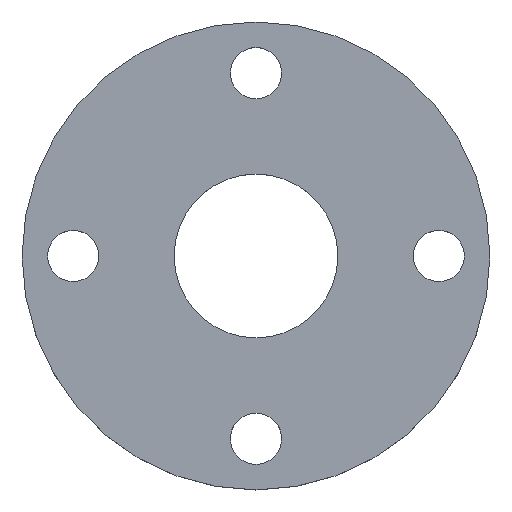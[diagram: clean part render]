
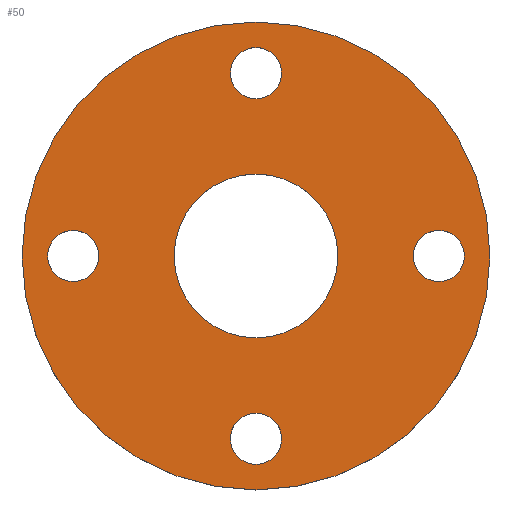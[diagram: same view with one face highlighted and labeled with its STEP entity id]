
A CAD part, top view. The second image highlights one B-rep face of the part: STEP entity #50.
In plain terms, the highlighted planar face has unit normal (0, 0, 1).
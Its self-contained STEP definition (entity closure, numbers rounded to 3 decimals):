
#21 = EDGE_CURVE('',#22,#22,#24,.T.);
#22 = VERTEX_POINT('',#23);
#23 = CARTESIAN_POINT('',(80.,0.,20.));
#24 = CIRCLE('',#25,80.);
#25 = AXIS2_PLACEMENT_3D('',#26,#27,#28);
#26 = CARTESIAN_POINT('',(0.,0.,20.));
#27 = DIRECTION('',(0.,0.,1.));
#28 = DIRECTION('',(1.,0.,0.));
#50 = ADVANCED_FACE('',(#51,#54,#65,#76,#87,#98),#109,.T.);
#51 = FACE_BOUND('',#52,.T.);
#52 = EDGE_LOOP('',(#53));
#53 = ORIENTED_EDGE('',*,*,#21,.T.);
#54 = FACE_BOUND('',#55,.T.);
#55 = EDGE_LOOP('',(#56));
#56 = ORIENTED_EDGE('',*,*,#57,.F.);
#57 = EDGE_CURVE('',#58,#58,#60,.T.);
#58 = VERTEX_POINT('',#59);
#59 = CARTESIAN_POINT('',(8.75,-62.5,20.));
#60 = CIRCLE('',#61,8.75);
#61 = AXIS2_PLACEMENT_3D('',#62,#63,#64);
#62 = CARTESIAN_POINT('',(0.,-62.5,20.));
#63 = DIRECTION('',(0.,0.,1.));
#64 = DIRECTION('',(1.,0.,0.));
#65 = FACE_BOUND('',#66,.T.);
#66 = EDGE_LOOP('',(#67));
#67 = ORIENTED_EDGE('',*,*,#68,.F.);
#68 = EDGE_CURVE('',#69,#69,#71,.T.);
#69 = VERTEX_POINT('',#70);
#70 = CARTESIAN_POINT('',(-53.75,0.,20.));
#71 = CIRCLE('',#72,8.75);
#72 = AXIS2_PLACEMENT_3D('',#73,#74,#75);
#73 = CARTESIAN_POINT('',(-62.5,0.,20.));
#74 = DIRECTION('',(0.,0.,1.));
#75 = DIRECTION('',(1.,0.,0.));
#76 = FACE_BOUND('',#77,.T.);
#77 = EDGE_LOOP('',(#78));
#78 = ORIENTED_EDGE('',*,*,#79,.F.);
#79 = EDGE_CURVE('',#80,#80,#82,.T.);
#80 = VERTEX_POINT('',#81);
#81 = CARTESIAN_POINT('',(28.,0.,20.));
#82 = CIRCLE('',#83,28.);
#83 = AXIS2_PLACEMENT_3D('',#84,#85,#86);
#84 = CARTESIAN_POINT('',(0.,0.,20.));
#85 = DIRECTION('',(0.,0.,1.));
#86 = DIRECTION('',(1.,0.,0.));
#87 = FACE_BOUND('',#88,.T.);
#88 = EDGE_LOOP('',(#89));
#89 = ORIENTED_EDGE('',*,*,#90,.F.);
#90 = EDGE_CURVE('',#91,#91,#93,.T.);
#91 = VERTEX_POINT('',#92);
#92 = CARTESIAN_POINT('',(71.25,0.,20.));
#93 = CIRCLE('',#94,8.75);
#94 = AXIS2_PLACEMENT_3D('',#95,#96,#97);
#95 = CARTESIAN_POINT('',(62.5,0.,20.));
#96 = DIRECTION('',(0.,0.,1.));
#97 = DIRECTION('',(1.,0.,0.));
#98 = FACE_BOUND('',#99,.T.);
#99 = EDGE_LOOP('',(#100));
#100 = ORIENTED_EDGE('',*,*,#101,.F.);
#101 = EDGE_CURVE('',#102,#102,#104,.T.);
#102 = VERTEX_POINT('',#103);
#103 = CARTESIAN_POINT('',(8.75,62.5,20.));
#104 = CIRCLE('',#105,8.75);
#105 = AXIS2_PLACEMENT_3D('',#106,#107,#108);
#106 = CARTESIAN_POINT('',(0.,62.5,20.));
#107 = DIRECTION('',(0.,0.,1.));
#108 = DIRECTION('',(1.,0.,0.));
#109 = PLANE('',#110);
#110 = AXIS2_PLACEMENT_3D('',#111,#112,#113);
#111 = CARTESIAN_POINT('',(0.,0.,20.));
#112 = DIRECTION('',(0.,0.,1.));
#113 = DIRECTION('',(1.,0.,0.));
